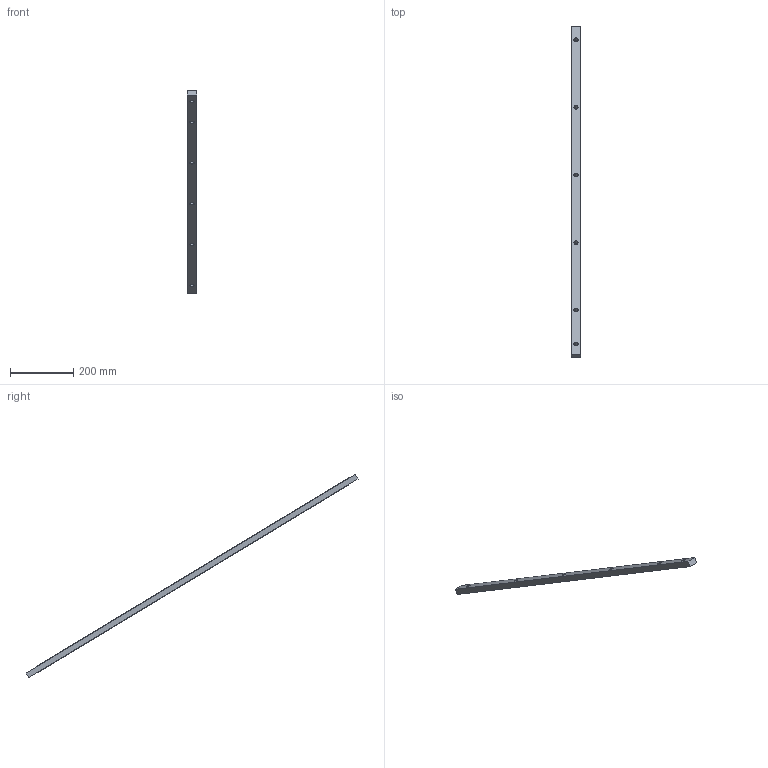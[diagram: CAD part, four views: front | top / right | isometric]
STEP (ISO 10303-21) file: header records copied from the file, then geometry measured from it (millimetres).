
FILE_DESCRIPTION(('Open CASCADE Model'),'2;1');
FILE_NAME('Open CASCADE Shape Model','2026-09-19T12:55:23',('Author'),( 'Open CASCADE'),'Open CASCADE STEP processor 7.9','Open CASCADE 7.9' ,'Unknown');
FILE_SCHEMA(('AUTOMOTIVE_DESIGN { 1 0 10303 214 1 1 1 1 }'));
Length unit declared in the file: millimetre
Products named in the file (1): Open CASCADE STEP translator 7.9 403
Bounding box: 30 x 1049.42 x 643.41 mm (x, y, z)
Volume: 641764.9 mm3; surface area: 120538 mm2
Topology: 1 solids, 1 shells, 12 faces, 30 edges, 20 vertices
Faces by surface type: plane 6, cylinder 6
Full cylindrical faces by diameter (mm): 13 x6
Entity records: 790 total; most frequent: DIRECTION 128, CARTESIAN_POINT 123, LINE 66, VECTOR 66, ORIENTED_EDGE 60, PCURVE 60, DEFINITIONAL_REPRESENTATION 60, EDGE_CURVE 30
